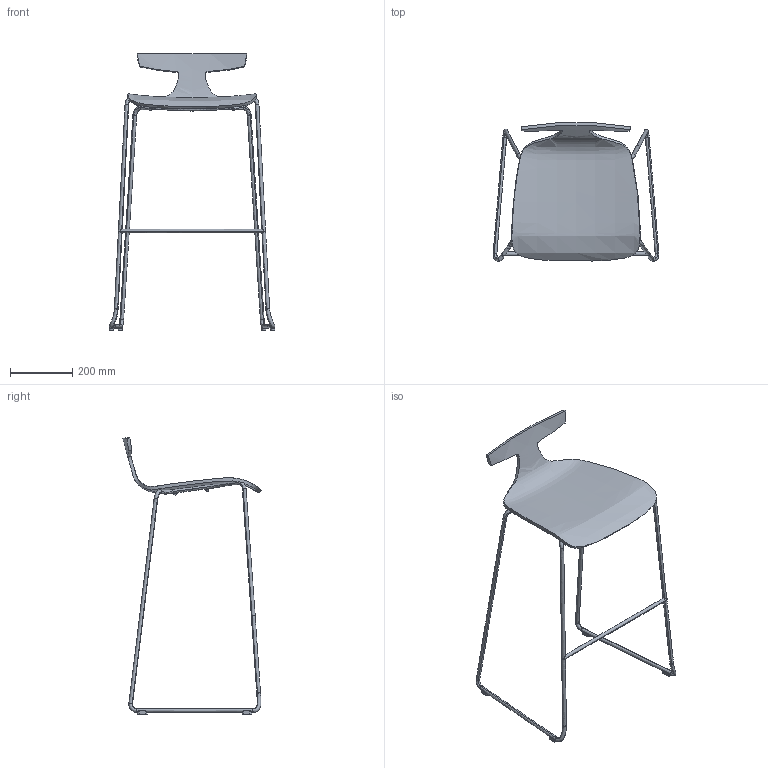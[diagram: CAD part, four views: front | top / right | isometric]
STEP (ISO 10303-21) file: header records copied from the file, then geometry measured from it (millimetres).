
FILE_DESCRIPTION(/* description */ (''),/* implementation_level */ '2;1');
FILE_NAME(/* name */ 'Taburete Karen Pata Patin',/* time_stamp */ '2019-06-17T17:55:07+02:00',/* author */ (''),/* organization */ (''),/* preprocessor_version */ 'ST-DEVELOPER v16.5',/* originating_system */ '',/* authorisation */ '');
FILE_SCHEMA (('AUTOMOTIVE_DESIGN'));
Length unit declared in the file: millimetre
Products named in the file (1): Document
Bounding box: 531.54 x 443 x 886.68 mm (x, y, z)
Volume: 2478974.1 mm3; surface area: 590226.8 mm2
Topology: 10 solids, 10 shells, 164 faces, 335 edges, 175 vertices
Faces by surface type: bspline 152, plane 12
Entity records: 21103 total; most frequent: CARTESIAN_POINT 19234, ORIENTED_EDGE 644, EDGE_CURVE 322, VERTEX_POINT 174, ADVANCED_FACE 164, FACE_OUTER_BOUND 164, EDGE_LOOP 164, B_SPLINE_CURVE_WITH_KNOTS 51
